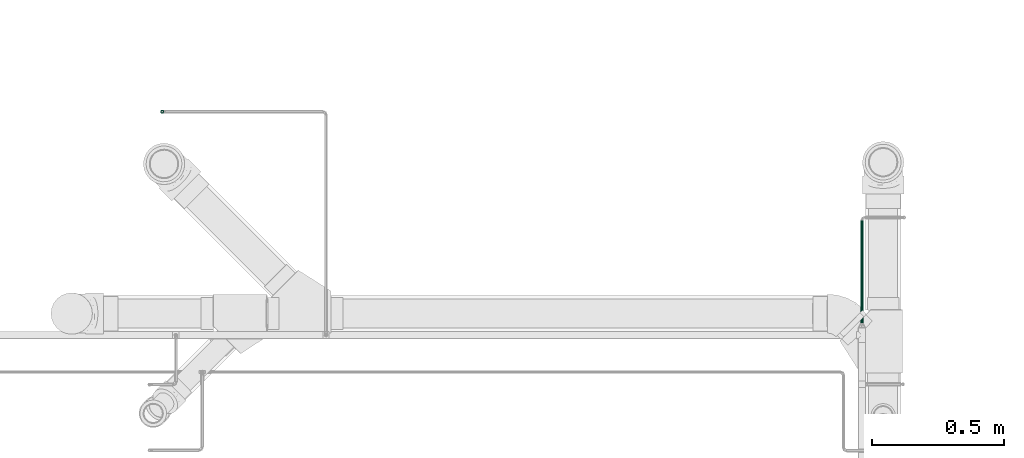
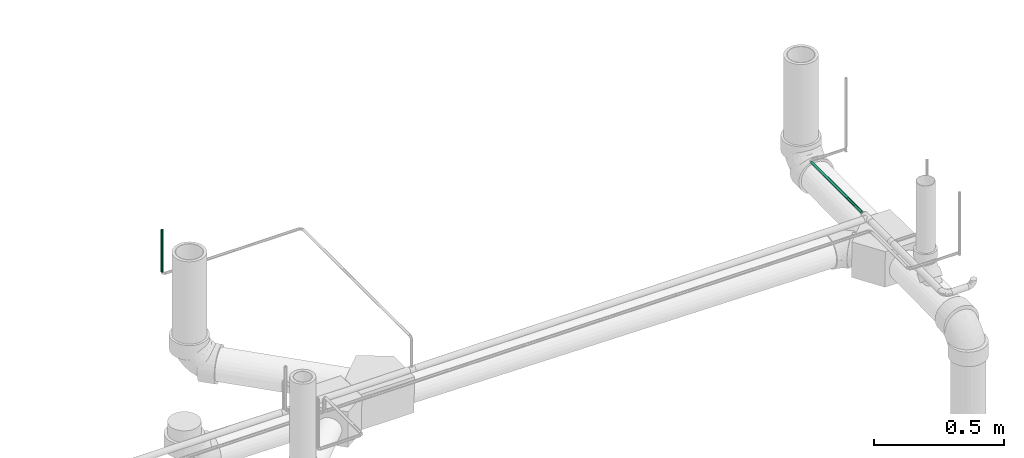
# One storey, part 44 of 108: 2 flow segments.
"""IFC2X3 building model written with IfcOpenShell, lengths in millimetres."""

from ifc_helpers import new_model, entity, si_unit, converted_unit, derived_unit, direction, frame, origin_with_axes, origin_2d_with_axis, place, context, subcontext, project, spatial, hollow_circle, extrude, source, transform, mapped, type_object, element, save


model = new_model("IFC2X3")

# Units and contexts
model_context = context("Model", 3, precision=0.01, world=frame((0.0, 4.29681676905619e-09, 0.0)), true_north=direction((4.01073788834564e-13, 1.0)))
plan_context = context("Plan", 3, precision=0.01, world=frame((0.0, 4.29681676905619e-09, 0.0)), true_north=direction((4.01073788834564e-13, 1.0)))
body_context = subcontext(model_context, "Body", "Model", "MODEL_VIEW")
ifc_project = project(units=[converted_unit("PLANEANGLEUNIT", "DEGREE", entity("IfcPositiveLengthMeasure", 0.0174532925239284), si_unit("PLANEANGLEUNIT", "RADIAN"), dimensions=[0, 0, 0, 0, 0, 0, 0]), si_unit("AREAUNIT", "SQUARE_METRE"), si_unit("LENGTHUNIT", "METRE", prefix="MILLI"), si_unit("MASSUNIT", "GRAM", prefix="KILO"), si_unit("POWERUNIT", "WATT"), si_unit("PRESSUREUNIT", "PASCAL", prefix="KILO"), si_unit("FORCEUNIT", "NEWTON", prefix="KILO"), si_unit("ELECTRICVOLTAGEUNIT", "VOLT"), si_unit("ELECTRICCURRENTUNIT", "AMPERE"), si_unit("THERMODYNAMICTEMPERATUREUNIT", "DEGREE_CELSIUS"), si_unit("TIMEUNIT", "SECOND"), si_unit("VOLUMEUNIT", "CUBIC_METRE"), derived_unit("LINEARVELOCITYUNIT", [(si_unit("LENGTHUNIT", "METRE"), 1), (si_unit("TIMEUNIT", "SECOND"), -1)]), derived_unit("VOLUMETRICFLOWRATEUNIT", [(si_unit("VOLUMEUNIT", "CUBIC_METRE"), 1), (si_unit("TIMEUNIT", "SECOND"), -1)]), derived_unit("THERMALTRANSMITTANCEUNIT", [(si_unit("POWERUNIT", "WATT"), 1), (si_unit("THERMODYNAMICTEMPERATUREUNIT", "KELVIN"), -1), (si_unit("AREAUNIT", "SQUARE_METRE"), -1)]), derived_unit("SOUNDPRESSUREUNIT", [(si_unit("PRESSUREUNIT", "PASCAL"), 1)])], contexts=[model_context, plan_context])

# Site, building, storey
site_placement = place(None, frame((0.0, -4.29681676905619e-09, 0.0), z_axis=(0.0, 0.0, 1.0), x_axis=(1.0, 0.0, 0.0)))
site = spatial("IfcSite", under=ifc_project, at=site_placement, CompositionType="ELEMENT")
building_placement = place(site_placement, frame((0.0, 4.29681676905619e-09, 0.0), z_axis=(0.0, 0.0, 1.0), x_axis=(1.0, 0.0, 0.0)))
building = spatial("IfcBuilding", under=site, at=building_placement, Name="mc-building", CompositionType="ELEMENT")
storey_placement = place(building_placement, frame((0.0, 0.0, 210200.0), z_axis=(0.0, 0.0, 1.0), x_axis=(1.0, 0.0, 0.0)))
storey = spatial("IfcBuildingStorey", under=building, at=storey_placement, Name="Nivå F - 0,7 m", CompositionType="ELEMENT", Elevation=210200.0)

# Flow segments
pipe_segment_type = type_object("IfcPipeSegmentType", Name="Kobberrør", PredefinedType="RIGIDSEGMENT")
shared_shape_1 = source(origin_with_axes(), body_context, "Body", "SweptSolid", [
    extrude(hollow_circle(Radius=6.0, WallThickness=2.0, at=origin_2d_with_axis()), frame((0.0, 0.0, 0.0), z_axis=(1.0, 0.0, 0.0), x_axis=(0.0, 1.0, 0.0)), (0.0, 0.0, 1.0), 198.0),
])
flow_segment_1_placement = place(storey_placement, frame((326172.02216, 464297.18577, 3396.96674999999), z_axis=(0.0, 1.0, 0.0), x_axis=(0.0, 0.0, 1.0)))
element("IfcFlowSegment", 1, at=flow_segment_1_placement, inside=storey, type_object=pipe_segment_type, Name="Kobberrør", context=body_context, shape_type="MappedRepresentation", body=[
    mapped(shared_shape_1, transform((0.0, 0.0, 0.0), scale=1.0)),
])
shared_shape_2 = source(origin_with_axes(), body_context, "Body", "SweptSolid", [
    extrude(hollow_circle(Radius=6.0, WallThickness=2.0, at=origin_2d_with_axis()), frame((0.0, 0.0, 0.0), z_axis=(1.0, 0.0, 0.0), x_axis=(0.0, 1.0, 0.0)), (0.0, 0.0, 1.0), 389.8),
])
flow_segment_2_placement = place(storey_placement, frame((328825.72018, 463494.0, 3233.60014), z_axis=(0.0, 0.0, 1.0), x_axis=(0.0, 1.0, 0.0)))
element("IfcFlowSegment", 2, at=flow_segment_2_placement, inside=storey, type_object=pipe_segment_type, Name="Kobberrør", context=body_context, shape_type="MappedRepresentation", body=[
    mapped(shared_shape_2, transform((0.0, 0.0, 0.0), scale=1.0)),
])

save(model, "model.ifc")
